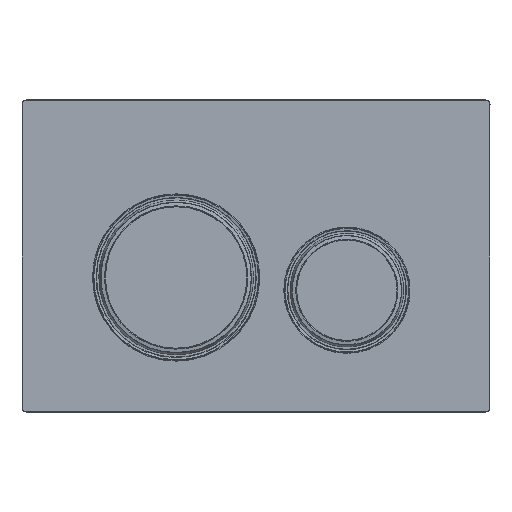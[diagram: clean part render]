
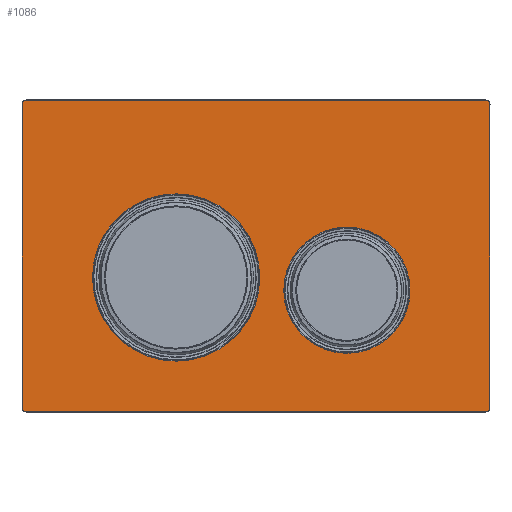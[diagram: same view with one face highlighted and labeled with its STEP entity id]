
A CAD part, front view. The second image highlights one B-rep face of the part: STEP entity #1086.
In plain terms, the highlighted planar face has unit normal (0, -1, 0).
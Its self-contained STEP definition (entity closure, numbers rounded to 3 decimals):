
#19=FACE_BOUND('',#221,.T.);
#20=FACE_BOUND('',#222,.T.);
#135=FACE_OUTER_BOUND('',#220,.T.);
#220=EDGE_LOOP('',(#791,#792,#793,#794,#795,#796,#797,#798));
#221=EDGE_LOOP('',(#799));
#222=EDGE_LOOP('',(#800));
#331=CIRCLE('',#1214,33.2);
#333=CIRCLE('',#1218,2.);
#334=CIRCLE('',#1219,2.);
#335=CIRCLE('',#1220,2.);
#336=CIRCLE('',#1221,2.);
#337=CIRCLE('',#1222,44.);
#411=LINE('',#1808,#453);
#412=LINE('',#1812,#454);
#413=LINE('',#1816,#455);
#414=LINE('',#1820,#456);
#453=VECTOR('',#1456,242.);
#454=VECTOR('',#1459,160.);
#455=VECTOR('',#1462,242.);
#456=VECTOR('',#1465,160.);
#504=VERTEX_POINT('',#1800);
#506=VERTEX_POINT('',#1806);
#507=VERTEX_POINT('',#1807);
#508=VERTEX_POINT('',#1809);
#509=VERTEX_POINT('',#1811);
#510=VERTEX_POINT('',#1813);
#511=VERTEX_POINT('',#1815);
#512=VERTEX_POINT('',#1817);
#513=VERTEX_POINT('',#1819);
#514=VERTEX_POINT('',#1822);
#617=EDGE_CURVE('',#504,#504,#331,.T.);
#619=EDGE_CURVE('',#506,#507,#411,.T.);
#620=EDGE_CURVE('',#508,#507,#333,.T.);
#621=EDGE_CURVE('',#508,#509,#412,.T.);
#622=EDGE_CURVE('',#510,#509,#334,.T.);
#623=EDGE_CURVE('',#510,#511,#413,.T.);
#624=EDGE_CURVE('',#512,#511,#335,.T.);
#625=EDGE_CURVE('',#512,#513,#414,.T.);
#626=EDGE_CURVE('',#506,#513,#336,.T.);
#627=EDGE_CURVE('',#514,#514,#337,.T.);
#791=ORIENTED_EDGE('',*,*,#619,.T.);
#792=ORIENTED_EDGE('',*,*,#620,.F.);
#793=ORIENTED_EDGE('',*,*,#621,.T.);
#794=ORIENTED_EDGE('',*,*,#622,.F.);
#795=ORIENTED_EDGE('',*,*,#623,.T.);
#796=ORIENTED_EDGE('',*,*,#624,.F.);
#797=ORIENTED_EDGE('',*,*,#625,.T.);
#798=ORIENTED_EDGE('',*,*,#626,.F.);
#799=ORIENTED_EDGE('',*,*,#627,.F.);
#800=ORIENTED_EDGE('',*,*,#617,.F.);
#960=PLANE('',#1217);
#1086=ADVANCED_FACE('',(#135,#19,#20),#960,.T.);
#1214=AXIS2_PLACEMENT_3D('',#1801,#1448,#1449);
#1217=AXIS2_PLACEMENT_3D('',#1805,#1454,#1455);
#1218=AXIS2_PLACEMENT_3D('',#1810,#1457,#1458);
#1219=AXIS2_PLACEMENT_3D('',#1814,#1460,#1461);
#1220=AXIS2_PLACEMENT_3D('',#1818,#1463,#1464);
#1221=AXIS2_PLACEMENT_3D('',#1821,#1466,#1467);
#1222=AXIS2_PLACEMENT_3D('',#1823,#1468,#1469);
#1448=DIRECTION('center_axis',(0.,-1.,0.));
#1449=DIRECTION('ref_axis',(1.,0.,0.));
#1454=DIRECTION('center_axis',(0.,-1.,0.));
#1455=DIRECTION('ref_axis',(0.,0.,
-1.));
#1456=DIRECTION('',(1.,0.,0.));
#1457=DIRECTION('center_axis',(0.,1.,0.));
#1458=DIRECTION('ref_axis',(1.,0.,0.));
#1459=DIRECTION('',(0.,0.,1.));
#1460=DIRECTION('center_axis',(0.,1.,0.));
#1461=DIRECTION('ref_axis',(0.,0.,1.));
#1462=DIRECTION('',(-1.,0.,0.));
#1463=DIRECTION('center_axis',(0.,1.,0.));
#1464=DIRECTION('ref_axis',(-1.,0.,0.));
#1465=DIRECTION('',(0.,0.,-1.));
#1466=DIRECTION('center_axis',(0.,1.,0.));
#1467=DIRECTION('ref_axis',(0.,0.,-1.));
#1468=DIRECTION('center_axis',(0.,-1.,0.));
#1469=DIRECTION('ref_axis',(-1.,0.,0.));
#1800=CARTESIAN_POINT('',(81.,-13.6,-18.));
#1801=CARTESIAN_POINT('Origin',(47.8,-13.6,-18.));
#1805=CARTESIAN_POINT('Origin',(-123.,-13.6,82.));
#1806=CARTESIAN_POINT('',(-121.,-13.6,-82.));
#1807=CARTESIAN_POINT('',(121.,-13.6,-82.));
#1808=CARTESIAN_POINT('',(-121.,-13.6,-82.));
#1809=CARTESIAN_POINT('',(123.,-13.6,-80.));
#1810=CARTESIAN_POINT('Origin',(121.,-13.6,-80.));
#1811=CARTESIAN_POINT('',(123.,-13.6,80.));
#1812=CARTESIAN_POINT('',(123.,-13.6,-80.));
#1813=CARTESIAN_POINT('',(121.,-13.6,82.));
#1814=CARTESIAN_POINT('Origin',(121.,-13.6,80.));
#1815=CARTESIAN_POINT('',(-121.,-13.6,82.));
#1816=CARTESIAN_POINT('',(121.,-13.6,82.));
#1817=CARTESIAN_POINT('',(-123.,-13.6,80.));
#1818=CARTESIAN_POINT('Origin',(-121.,-13.6,80.));
#1819=CARTESIAN_POINT('',(-123.,-13.6,-80.));
#1820=CARTESIAN_POINT('',(-123.,-13.6,80.));
#1821=CARTESIAN_POINT('Origin',(-121.,-13.6,-80.));
#1822=CARTESIAN_POINT('',(-86.,-13.6,-11.3));
#1823=CARTESIAN_POINT('Origin',(-42.,-13.6,-11.3));
